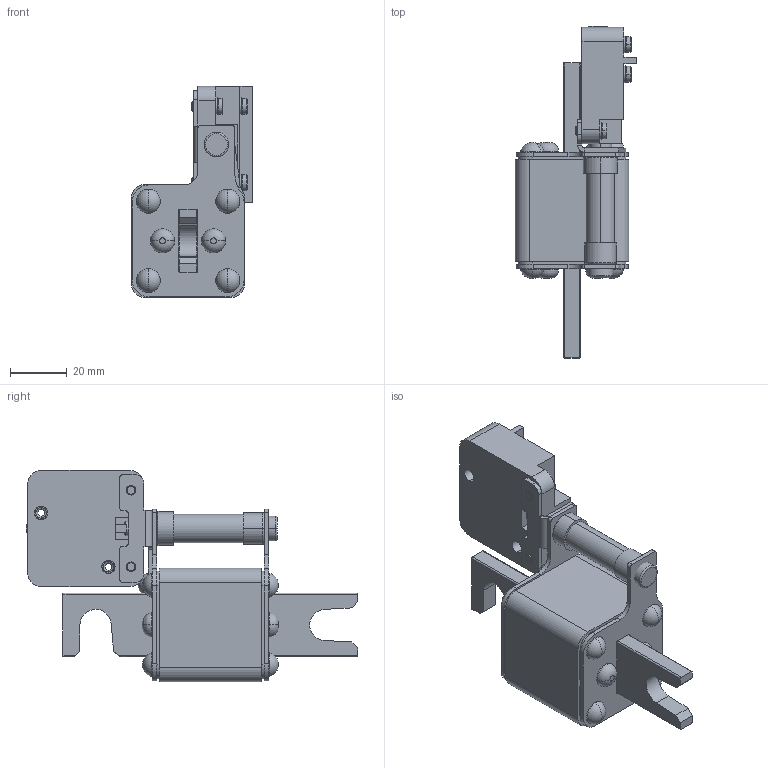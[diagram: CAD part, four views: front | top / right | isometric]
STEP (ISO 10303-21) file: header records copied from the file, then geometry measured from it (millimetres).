
FILE_DESCRIPTION (( 'STEP AP214' ), '1' );
FILE_NAME ('Ïðåäîõðàíèòåëü ÏÍÁ5Ì-380_400-4.STEP', '2023-04-21T06:29:07', ( '' ), ( '' ), 'SwSTEP 2.0', 'SolidWorks 2018', '' );
FILE_SCHEMA (( 'AUTOMOTIVE_DESIGN' ));
Length unit declared in the file: millimetre
Products named in the file (1): Ïðåäîõðàíèòåëü ÏÍÁ5Ì-380_400-4
Bounding box: 42.8 x 117 x 74.5 mm (x, y, z)
Volume: 103525.6 mm3; surface area: 49498.6 mm2
Topology: 46 solids, 46 shells, 915 faces, 2102 edges, 1318 vertices
Faces by surface type: plane 391, cylinder 358, torus 92, cone 58, sphere 16
Entity records: 36666 total; most frequent: DIRECTION 4912, CARTESIAN_POINT 4348, ORIENTED_EDGE 4204, EDGE_CURVE 2102, AXIS2_PLACEMENT_3D 1898, VERTEX_POINT 1318, LINE 1116, VECTOR 1116
